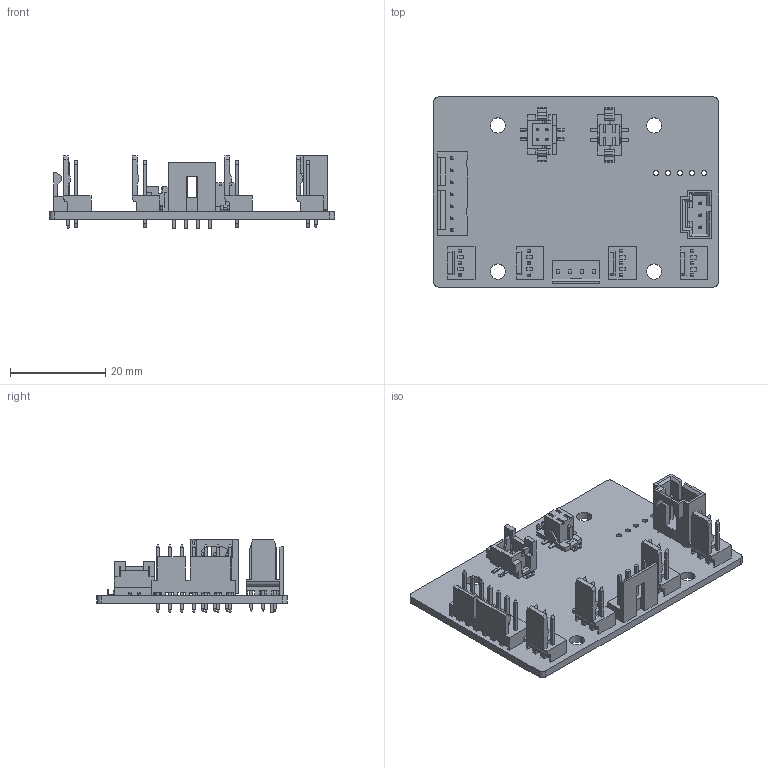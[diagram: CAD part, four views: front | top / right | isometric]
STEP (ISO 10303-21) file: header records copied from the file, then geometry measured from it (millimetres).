
FILE_DESCRIPTION (( 'STEP AP214' ), '1' );
FILE_NAME ('FBSCAB with components.STEP', '2024-09-12T21:21:09', ( '' ), ( '' ), 'SwSTEP 2.0', 'SolidWorks 2021', '' );
FILE_SCHEMA (( 'AUTOMOTIVE_DESIGN' ));
Length unit declared in the file: millimetre
Products named in the file (13): STEP_[No Variations] for FBSCAB.PcbDoc.step; DF11C-4DP-2V_X_8AÈ_X_97ª.stp; CFAPN01696.stp; Board.step; 22-11-1031.stp; DF11-4DS-2V_X_8AÈ_X_97ª.stp; FBSCAB with components; DF11-4DS-2V.stp; CFAPN01697.stp; FBSCAB; Open CASCADE STEP translator 7.5 1.1.1.step; DF11C-4DP-2V.stp; 022232071.stp
Assembly tree (15 placements, depth 5):
  FBSCAB with components
    FBSCAB
      STEP_[No Variations] for FBSCAB.PcbDoc.step
        Board.step
          Open CASCADE STEP translator 7.5 1.1.1.step
    022232071.stp
    22-11-1031.stp  x4
    CFAPN01697.stp
    CFAPN01696.stp
    DF11C-4DP-2V.stp
      DF11C-4DP-2V_X_8AÈ_X_97ª.stp
    DF11-4DS-2V.stp
      DF11-4DS-2V_X_8AÈ_X_97ª.stp
Bounding box: 60 x 40 x 15.41 mm (x, y, z)
Volume: 5703.9 mm3; surface area: 9415.1 mm2
Topology: 10 solids, 10 shells, 1189 faces, 3185 edges, 2074 vertices
Faces by surface type: plane 925, cylinder 198, bspline 42, torus 20, cone 4
Entity records: 31666 total; most frequent: CARTESIAN_POINT 7270, ORIENTED_EDGE 5182, DIRECTION 4663, EDGE_CURVE 2591, LINE 1995, VECTOR 1995, VERTEX_POINT 1678, AXIS2_PLACEMENT_3D 1334
